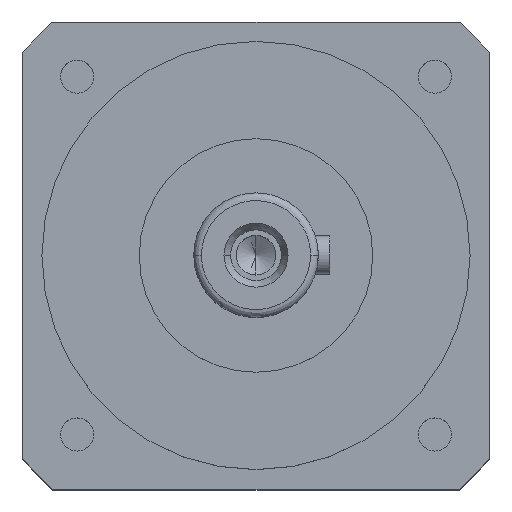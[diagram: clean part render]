
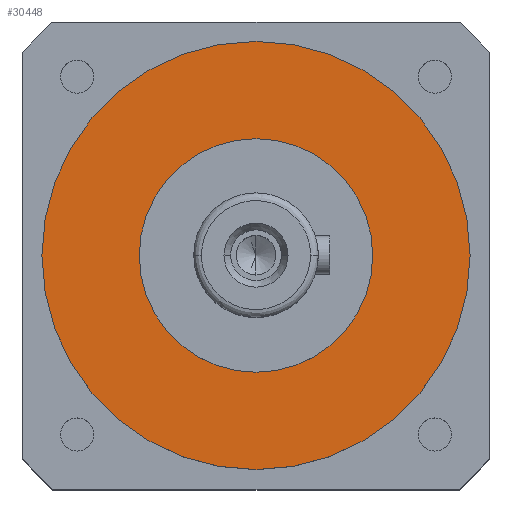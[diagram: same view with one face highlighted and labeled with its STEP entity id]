
A CAD part, top view. The second image highlights one B-rep face of the part: STEP entity #30448.
In plain terms, the highlighted planar face has unit normal (0, 0, 1).
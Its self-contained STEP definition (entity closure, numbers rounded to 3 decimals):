
#1656 = ORIENTED_EDGE ( 'NONE', *, *, #22977, .F. ) ;
#3107 = VERTEX_POINT ( 'NONE', #40498 ) ;
#4048 = EDGE_LOOP ( 'NONE', ( #1656, #24779 ) ) ;
#5735 = CARTESIAN_POINT ( 'NONE',  ( -55., 0., -52. ) ) ;
#7848 = EDGE_CURVE ( 'NONE', #3107, #28490, #10765, .T. ) ;
#9061 = CARTESIAN_POINT ( 'NONE',  ( 0., 0., -52. ) ) ;
#9363 = CARTESIAN_POINT ( 'NONE',  ( 0., 30., -52. ) ) ;
#9509 = DIRECTION ( 'NONE',  ( 0., 0., 1. ) ) ;
#10288 = EDGE_LOOP ( 'NONE', ( #20552, #37261 ) ) ;
#10495 = FACE_OUTER_BOUND ( 'NONE', #10288, .T. ) ;
#10765 = CIRCLE ( 'NONE', #40604, 30. ) ;
#10847 = CIRCLE ( 'NONE', #23200, 30. ) ;
#12373 = DIRECTION ( 'NONE',  ( 1., 0., 0. ) ) ;
#12688 = PLANE ( 'NONE',  #35604 ) ;
#12837 = EDGE_CURVE ( 'NONE', #34904, #28157, #18422, .T. ) ;
#13107 = CIRCLE ( 'NONE', #40833, 55. ) ;
#14785 = CARTESIAN_POINT ( 'NONE',  ( 0., 0., -52. ) ) ;
#15390 = CARTESIAN_POINT ( 'NONE',  ( 30., 0., -52. ) ) ;
#15987 = DIRECTION ( 'NONE',  ( -1., 0., 0. ) ) ;
#16934 = CARTESIAN_POINT ( 'NONE',  ( 0., 0., -52. ) ) ;
#17283 = EDGE_CURVE ( 'NONE', #28157, #34904, #13107, .T. ) ;
#18104 = DIRECTION ( 'NONE',  ( 1., 0., 0. ) ) ;
#18422 = CIRCLE ( 'NONE', #29128, 55. ) ;
#20232 = DIRECTION ( 'NONE',  ( 1., 0., 0. ) ) ;
#20552 = ORIENTED_EDGE ( 'NONE', *, *, #12837, .F. ) ;
#22977 = EDGE_CURVE ( 'NONE', #28490, #3107, #10847, .T. ) ;
#23200 = AXIS2_PLACEMENT_3D ( 'NONE', #29278, #9509, #32607 ) ;
#24635 = CARTESIAN_POINT ( 'NONE',  ( 55., 0., -52. ) ) ;
#24779 = ORIENTED_EDGE ( 'NONE', *, *, #7848, .F. ) ;
#25759 = DIRECTION ( 'NONE',  ( 0., 0., -1. ) ) ;
#25944 = FACE_BOUND ( 'NONE', #4048, .T. ) ;
#28157 = VERTEX_POINT ( 'NONE', #5735 ) ;
#28490 = VERTEX_POINT ( 'NONE', #15390 ) ;
#29128 = AXIS2_PLACEMENT_3D ( 'NONE', #14785, #37866, #18104 ) ;
#29278 = CARTESIAN_POINT ( 'NONE',  ( 0., 0., -52. ) ) ;
#30448 = ADVANCED_FACE ( 'NONE', ( #10495, #25944 ), #12688, .F. ) ;
#32148 = DIRECTION ( 'NONE',  ( 0., 0., 1. ) ) ;
#32607 = DIRECTION ( 'NONE',  ( 1., 0., 0. ) ) ;
#34904 = VERTEX_POINT ( 'NONE', #24635 ) ;
#35604 = AXIS2_PLACEMENT_3D ( 'NONE', #9363, #25759, #15987 ) ;
#37261 = ORIENTED_EDGE ( 'NONE', *, *, #17283, .F. ) ;
#37866 = DIRECTION ( 'NONE',  ( 0., 0., -1. ) ) ;
#40027 = DIRECTION ( 'NONE',  ( 0., 0., -1. ) ) ;
#40498 = CARTESIAN_POINT ( 'NONE',  ( -30., 0., -52. ) ) ;
#40604 = AXIS2_PLACEMENT_3D ( 'NONE', #9061, #32148, #12373 ) ;
#40833 = AXIS2_PLACEMENT_3D ( 'NONE', #16934, #40027, #20232 ) ;
